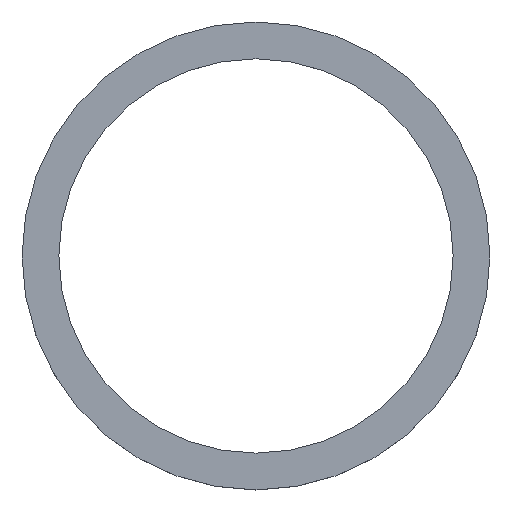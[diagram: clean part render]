
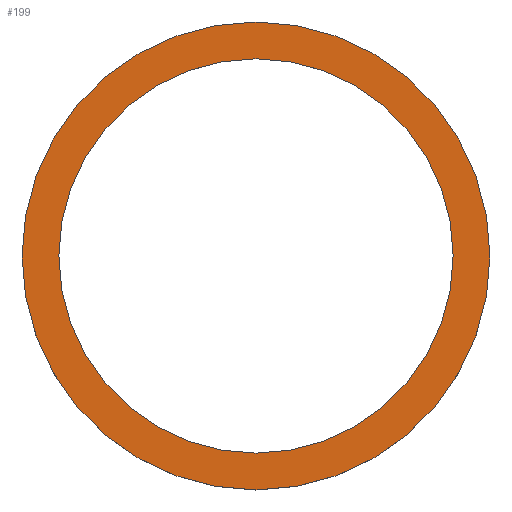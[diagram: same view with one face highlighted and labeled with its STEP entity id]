
A CAD part, top view. The second image highlights one B-rep face of the part: STEP entity #199.
In plain terms, the highlighted planar face has unit normal (0, 0, 1).
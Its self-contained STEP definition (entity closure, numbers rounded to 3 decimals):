
#31 = CYLINDRICAL_SURFACE('',#32,178.);
#32 = AXIS2_PLACEMENT_3D('',#33,#34,#35);
#33 = CARTESIAN_POINT('',(0.,0.,0.));
#34 = DIRECTION('',(-0.,-0.,-1.));
#35 = DIRECTION('',(1.,0.,0.));
#56 = VERTEX_POINT('',#57);
#57 = CARTESIAN_POINT('',(178.,0.,35.));
#78 = EDGE_CURVE('',#56,#56,#79,.T.);
#79 = SURFACE_CURVE('',#80,(#85,#92),.PCURVE_S1.);
#80 = CIRCLE('',#81,178.);
#81 = AXIS2_PLACEMENT_3D('',#82,#83,#84);
#82 = CARTESIAN_POINT('',(0.,0.,35.));
#83 = DIRECTION('',(0.,0.,1.));
#84 = DIRECTION('',(1.,0.,0.));
#85 = PCURVE('',#31,#86);
#86 = DEFINITIONAL_REPRESENTATION('',(#87),#91);
#87 = LINE('',#88,#89);
#88 = CARTESIAN_POINT('',(-0.,-35.));
#89 = VECTOR('',#90,1.);
#90 = DIRECTION('',(-1.,0.));
#91 = ( GEOMETRIC_REPRESENTATION_CONTEXT(2) 
PARAMETRIC_REPRESENTATION_CONTEXT() REPRESENTATION_CONTEXT('2D SPACE',''
  ) );
#92 = PCURVE('',#93,#98);
#93 = PLANE('',#94);
#94 = AXIS2_PLACEMENT_3D('',#95,#96,#97);
#95 = CARTESIAN_POINT('',(0.,0.,35.));
#96 = DIRECTION('',(0.,0.,1.));
#97 = DIRECTION('',(1.,0.,-0.));
#98 = DEFINITIONAL_REPRESENTATION('',(#99),#103);
#99 = CIRCLE('',#100,178.);
#100 = AXIS2_PLACEMENT_2D('',#101,#102);
#101 = CARTESIAN_POINT('',(0.,0.));
#102 = DIRECTION('',(1.,0.));
#103 = ( GEOMETRIC_REPRESENTATION_CONTEXT(2) 
PARAMETRIC_REPRESENTATION_CONTEXT() REPRESENTATION_CONTEXT('2D SPACE',''
  ) );
#199 = ADVANCED_FACE('',(#200,#203),#93,.T.);
#200 = FACE_BOUND('',#201,.T.);
#201 = EDGE_LOOP('',(#202));
#202 = ORIENTED_EDGE('',*,*,#78,.T.);
#203 = FACE_BOUND('',#204,.T.);
#204 = EDGE_LOOP('',(#205));
#205 = ORIENTED_EDGE('',*,*,#206,.F.);
#206 = EDGE_CURVE('',#207,#207,#209,.T.);
#207 = VERTEX_POINT('',#208);
#208 = CARTESIAN_POINT('',(150.,0.,35.));
#209 = SURFACE_CURVE('',#210,(#215,#222),.PCURVE_S1.);
#210 = CIRCLE('',#211,150.);
#211 = AXIS2_PLACEMENT_3D('',#212,#213,#214);
#212 = CARTESIAN_POINT('',(0.,0.,35.));
#213 = DIRECTION('',(0.,0.,1.));
#214 = DIRECTION('',(1.,0.,0.));
#215 = PCURVE('',#93,#216);
#216 = DEFINITIONAL_REPRESENTATION('',(#217),#221);
#217 = CIRCLE('',#218,150.);
#218 = AXIS2_PLACEMENT_2D('',#219,#220);
#219 = CARTESIAN_POINT('',(0.,0.));
#220 = DIRECTION('',(1.,0.));
#221 = ( GEOMETRIC_REPRESENTATION_CONTEXT(2) 
PARAMETRIC_REPRESENTATION_CONTEXT() REPRESENTATION_CONTEXT('2D SPACE',''
  ) );
#222 = PCURVE('',#223,#228);
#223 = CYLINDRICAL_SURFACE('',#224,150.);
#224 = AXIS2_PLACEMENT_3D('',#225,#226,#227);
#225 = CARTESIAN_POINT('',(0.,0.,32.));
#226 = DIRECTION('',(-0.,-0.,-1.));
#227 = DIRECTION('',(1.,0.,0.));
#228 = DEFINITIONAL_REPRESENTATION('',(#229),#233);
#229 = LINE('',#230,#231);
#230 = CARTESIAN_POINT('',(-0.,-3.));
#231 = VECTOR('',#232,1.);
#232 = DIRECTION('',(-1.,0.));
#233 = ( GEOMETRIC_REPRESENTATION_CONTEXT(2) 
PARAMETRIC_REPRESENTATION_CONTEXT() REPRESENTATION_CONTEXT('2D SPACE',''
  ) );
